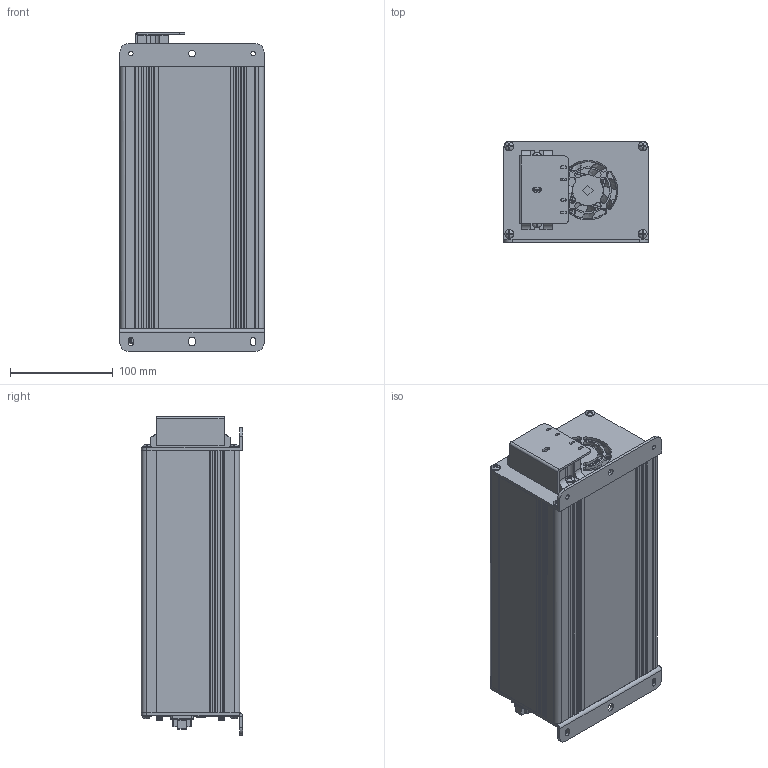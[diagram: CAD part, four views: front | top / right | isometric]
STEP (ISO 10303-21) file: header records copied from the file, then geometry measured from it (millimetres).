
FILE_DESCRIPTION(/* description */ (''),/* implementation_level */ '2;1');
FILE_NAME(/* name */ '',/* time_stamp */ '2026-07-14T13:49:41+09:00',/* author */ ('Administrator'),/* organization */ (''),/* preprocessor_version */ 'ST-DEVELOPER v20.1',/* originating_system */ 'Autodesk Inventor 2026',/* authorisation */ '');
FILE_SCHEMA (('AUTOMOTIVE_DESIGN { 1 0 10303 214 3 1 1 }'));
Products named in the file (1): OLED DH255COM_단순화_1
Bounding box: 140 x 98.5 x 309.85 mm (x, y, z)
Volume: 555042.4 mm3; surface area: 396255.2 mm2
Topology: 9 solids, 9 shells, 5198 faces, 13841 edges, 9036 vertices
Faces by surface type: plane 3006, bspline 1073, cylinder 981, torus 106, sphere 21, cone 11
Full cylindrical faces by diameter (mm): 0.013 x9, 0.457 x2, 0.6 x3, 0.61 x27, 0.635 x9, 0.7 x18, 0.75 x18, 0.85 x3, 0.9 x20, 1 x5, 1.397 x9, 1.5 x4, 2.1 x4, 2.286 x9, 2.4 x2, 2.5 x4, 2.8 x10, 2.9 x2, 2.957 x8, 3 x4, 3.048 x4, 3.4 x5, 3.8 x10, 3.9 x2, 4 x15, 4.3 x4, 4.4 x2, 4.5 x10, 5 x8, 5.4 x4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
Entity records: 184379 total; most frequent: CARTESIAN_POINT 54471, ORIENTED_EDGE 27644, DIRECTION 22302, EDGE_CURVE 13822, VERTEX_POINT 9035, LINE 8836, VECTOR 8836, AXIS2_PLACEMENT_3D 6733
